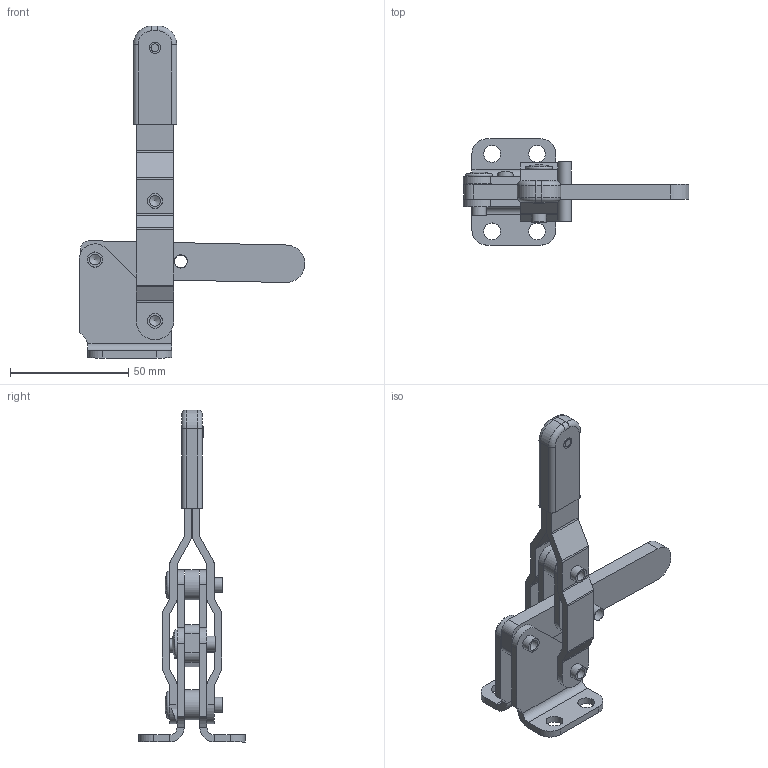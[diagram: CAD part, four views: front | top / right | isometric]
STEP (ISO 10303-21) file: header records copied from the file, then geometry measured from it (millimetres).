
FILE_DESCRIPTION(/* description */ (''),/* implementation_level */ '2;1');
FILE_NAME(/* name */ 'vst-375',/* time_stamp */ '2004-01-06T08:25:58-05:00',/* author */ (''),/* organization */ (''),/* preprocessor_version */ 'ST-DEVELOPER v9',/* originating_system */ 'EDS PLM SOLUTIONS - UNIGRAPHICS NX 1.0',/* authorisation */ '');
FILE_SCHEMA (('AUTOMOTIVE_DESIGN { 1 0 10303 214 0 1 1 1 }'));
Length unit declared in the file: inch
Products named in the file (1): mfur5C13004s
Bounding box: 95.56 x 45.01 x 140.65 mm (x, y, z)
Volume: 81181.4 mm3; surface area: 69239.5 mm2
Topology: 32 solids, 32 shells, 830 faces, 2124 edges, 1396 vertices
Faces by surface type: plane 574, cylinder 206, torus 30, sphere 10, cone 10
Full cylindrical faces by diameter (mm): 3.353 x2, 4.572 x8, 4.724 x2, 4.851 x4, 5.41 x2, 5.537 x2, 5.563 x2, 6.299 x8, 6.426 x28, 6.528 x4, 6.604 x2, 7.112 x8, 12.7 x4
Entity records: 24435 total; most frequent: CARTESIAN_POINT 4163, DIRECTION 4086, ORIENTED_EDGE 3944, EDGE_CURVE 1972, LINE 1520, VECTOR 1520, VERTEX_POINT 1360, AXIS2_PLACEMENT_3D 1283
